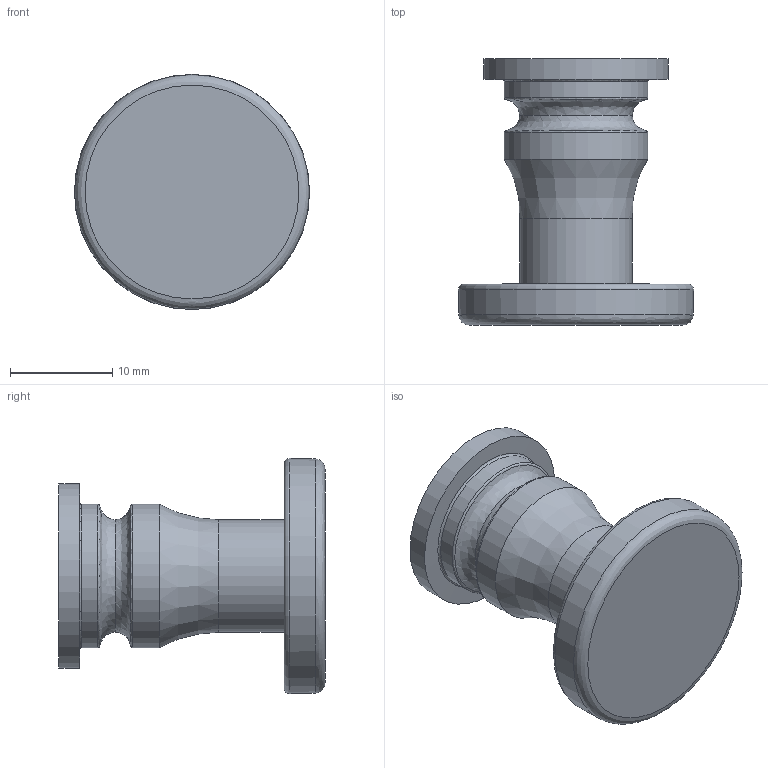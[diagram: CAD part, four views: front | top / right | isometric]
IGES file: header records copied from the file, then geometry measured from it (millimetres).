
Start section: Data from Parasolid IGES Translator 15.0.47, Copyright(c) 2006 Siemens P LM Software. All Rights Reserved.
Global section: file name: 9132294.igs; native system:  By UGS Corp.; preprocessor: XPlus GENERIC/IGES 3.0; author: Noname; organization: Noname; date: 20140122.102005; units: millimetre
Bounding box: 22.97 x 26 x 22.97 mm (x, y, z)
Surface area: 2334.9 mm2 (no closed solid volume)
Topology: 0 solids, 0 shells, 20 faces, 80 edges, 65 vertices
Faces by surface type: revolution 16, extrusion 4
